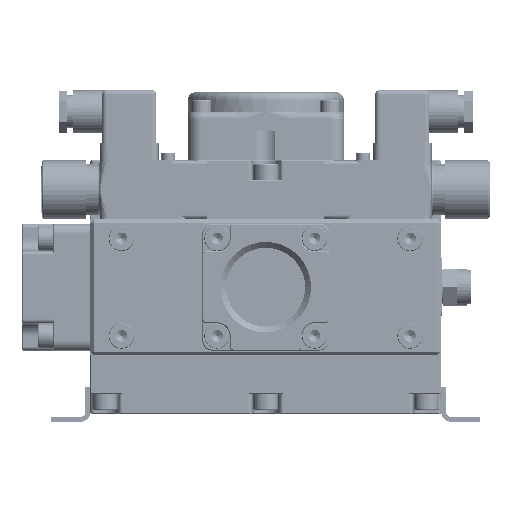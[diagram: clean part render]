
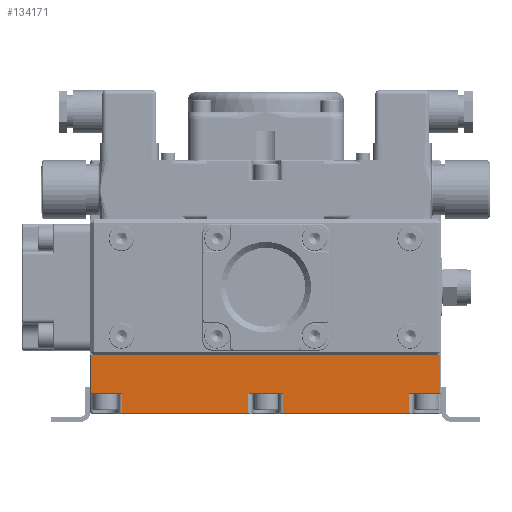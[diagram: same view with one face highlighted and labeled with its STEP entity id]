
A CAD part, front view. The second image highlights one B-rep face of the part: STEP entity #134171.
In plain terms, the highlighted planar face has unit normal (0, -1, 0).
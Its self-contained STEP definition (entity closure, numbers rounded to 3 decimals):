
#3 = VECTOR ( 'NONE', #94848, 1000. ) ;
#2282 = CARTESIAN_POINT ( 'NONE',  ( 163.5, 0., -29.5 ) ) ;
#3006 = DIRECTION ( 'NONE',  ( -1., 0., 0. ) ) ;
#4968 = CARTESIAN_POINT ( 'NONE',  ( 81., 0., -29.5 ) ) ;
#5796 = LINE ( 'NONE', #90646, #36987 ) ;
#7383 = LINE ( 'NONE', #80648, #7451 ) ;
#7451 = VECTOR ( 'NONE', #28660, 1000. ) ;
#8296 = DIRECTION ( 'NONE',  ( 0., 0., 1. ) ) ;
#10312 = DIRECTION ( 'NONE',  ( 0., 0., 1. ) ) ;
#10655 = ORIENTED_EDGE ( 'NONE', *, *, #125595, .F. ) ;
#10705 = CARTESIAN_POINT ( 'NONE',  ( 0., 0., 0. ) ) ;
#12466 = CARTESIAN_POINT ( 'NONE',  ( 163.5, 0., -19.5 ) ) ;
#12685 = DIRECTION ( 'NONE',  ( 0., 0., -1. ) ) ;
#14376 = VECTOR ( 'NONE', #26143, 1000. ) ;
#16918 = AXIS2_PLACEMENT_3D ( 'NONE', #10705, #31945, #71626 ) ;
#17251 = LINE ( 'NONE', #121272, #87725 ) ;
#18725 = EDGE_CURVE ( 'NONE', #129624, #106230, #130178, .T. ) ;
#21653 = VERTEX_POINT ( 'NONE', #127277 ) ;
#21790 = ORIENTED_EDGE ( 'NONE', *, *, #115852, .F. ) ;
#25494 = ORIENTED_EDGE ( 'NONE', *, *, #122169, .F. ) ;
#26143 = DIRECTION ( 'NONE',  ( 0., 0., 1. ) ) ;
#27993 = EDGE_CURVE ( 'NONE', #40693, #89831, #5796, .T. ) ;
#28660 = DIRECTION ( 'NONE',  ( -1., 0., 0. ) ) ;
#29913 = PLANE ( 'NONE',  #16918 ) ;
#31078 = ORIENTED_EDGE ( 'NONE', *, *, #133584, .F. ) ;
#31119 = VERTEX_POINT ( 'NONE', #2282 ) ;
#31945 = DIRECTION ( 'NONE',  ( 0., -1., 0. ) ) ;
#32235 = LINE ( 'NONE', #32910, #89298 ) ;
#32910 = CARTESIAN_POINT ( 'NONE',  ( 0.5, 0., -19.5 ) ) ;
#33313 = ORIENTED_EDGE ( 'NONE', *, *, #107420, .F. ) ;
#34014 = ORIENTED_EDGE ( 'NONE', *, *, #83152, .F. ) ;
#34524 = CARTESIAN_POINT ( 'NONE',  ( 16.5, 0., -19.5 ) ) ;
#35146 = CARTESIAN_POINT ( 'NONE',  ( 179.5, 0., 0. ) ) ;
#35724 = ORIENTED_EDGE ( 'NONE', *, *, #92519, .F. ) ;
#36001 = CARTESIAN_POINT ( 'NONE',  ( 0.5, 0., -19.5 ) ) ;
#36987 = VECTOR ( 'NONE', #131744, 1000. ) ;
#38793 = EDGE_CURVE ( 'NONE', #106230, #21653, #7383, .T. ) ;
#39113 = CARTESIAN_POINT ( 'NONE',  ( 99., 0., -29.5 ) ) ;
#40165 = VERTEX_POINT ( 'NONE', #85265 ) ;
#40693 = VERTEX_POINT ( 'NONE', #108161 ) ;
#41068 = ORIENTED_EDGE ( 'NONE', *, *, #27993, .F. ) ;
#48139 = CARTESIAN_POINT ( 'NONE',  ( 99., 0., -19.5 ) ) ;
#51754 = LINE ( 'NONE', #74322, #3 ) ;
#56453 = CARTESIAN_POINT ( 'NONE',  ( 81., 0., -19.5 ) ) ;
#59492 = DIRECTION ( 'NONE',  ( -1., 0., 0. ) ) ;
#59610 = LINE ( 'NONE', #74454, #123856 ) ;
#64965 = VERTEX_POINT ( 'NONE', #88416 ) ;
#68037 = VECTOR ( 'NONE', #119517, 1000. ) ;
#68133 = ORIENTED_EDGE ( 'NONE', *, *, #82665, .F. ) ;
#69633 = ORIENTED_EDGE ( 'NONE', *, *, #38793, .F. ) ;
#71626 = DIRECTION ( 'NONE',  ( 0., 0., 1. ) ) ;
#74322 = CARTESIAN_POINT ( 'NONE',  ( 179.5, 0., 0. ) ) ;
#74454 = CARTESIAN_POINT ( 'NONE',  ( 163.5, 0., -19.5 ) ) ;
#74527 = ORIENTED_EDGE ( 'NONE', *, *, #18725, .F. ) ;
#77088 = LINE ( 'NONE', #129795, #68037 ) ;
#77561 = DIRECTION ( 'NONE',  ( -1., 0., 0. ) ) ;
#78253 = EDGE_CURVE ( 'NONE', #64965, #89981, #97427, .T. ) ;
#80648 = CARTESIAN_POINT ( 'NONE',  ( 99., 0., -19.5 ) ) ;
#80826 = DIRECTION ( 'NONE',  ( 0., 0., -1. ) ) ;
#82665 = EDGE_CURVE ( 'NONE', #89831, #31119, #59610, .T. ) ;
#83152 = EDGE_CURVE ( 'NONE', #21653, #64965, #85249, .T. ) ;
#85249 = LINE ( 'NONE', #56453, #106554 ) ;
#85265 = CARTESIAN_POINT ( 'NONE',  ( 0.5, 0., 0. ) ) ;
#87213 = LINE ( 'NONE', #34524, #115161 ) ;
#87725 = VECTOR ( 'NONE', #8296, 1000. ) ;
#88416 = CARTESIAN_POINT ( 'NONE',  ( 81., 0., -29.5 ) ) ;
#89298 = VECTOR ( 'NONE', #10312, 1000. ) ;
#89831 = VERTEX_POINT ( 'NONE', #12466 ) ;
#89981 = VERTEX_POINT ( 'NONE', #123080 ) ;
#90282 = LINE ( 'NONE', #128881, #134554 ) ;
#90646 = CARTESIAN_POINT ( 'NONE',  ( 179.5, 0., -19.5 ) ) ;
#92519 = EDGE_CURVE ( 'NONE', #117771, #40165, #32235, .T. ) ;
#93518 = FACE_OUTER_BOUND ( 'NONE', #132507, .T. ) ;
#94096 = VERTEX_POINT ( 'NONE', #113775 ) ;
#94848 = DIRECTION ( 'NONE',  ( 0., 0., -1. ) ) ;
#97427 = LINE ( 'NONE', #4968, #102303 ) ;
#102303 = VECTOR ( 'NONE', #77561, 1000. ) ;
#103592 = VERTEX_POINT ( 'NONE', #35146 ) ;
#106230 = VERTEX_POINT ( 'NONE', #48139 ) ;
#106554 = VECTOR ( 'NONE', #12685, 1000. ) ;
#107420 = EDGE_CURVE ( 'NONE', #40165, #103592, #77088, .T. ) ;
#107962 = CARTESIAN_POINT ( 'NONE',  ( 99., 0., -29.5 ) ) ;
#108161 = CARTESIAN_POINT ( 'NONE',  ( 179.5, 0., -19.5 ) ) ;
#113775 = CARTESIAN_POINT ( 'NONE',  ( 16.5, 0., -19.5 ) ) ;
#115161 = VECTOR ( 'NONE', #3006, 1000. ) ;
#115852 = EDGE_CURVE ( 'NONE', #89981, #94096, #17251, .T. ) ;
#117771 = VERTEX_POINT ( 'NONE', #36001 ) ;
#119517 = DIRECTION ( 'NONE',  ( 1., 0., 0. ) ) ;
#121272 = CARTESIAN_POINT ( 'NONE',  ( 16.5, 0., -29.5 ) ) ;
#122169 = EDGE_CURVE ( 'NONE', #94096, #117771, #87213, .T. ) ;
#123080 = CARTESIAN_POINT ( 'NONE',  ( 16.5, 0., -29.5 ) ) ;
#123856 = VECTOR ( 'NONE', #80826, 1000. ) ;
#124867 = ORIENTED_EDGE ( 'NONE', *, *, #78253, .F. ) ;
#125595 = EDGE_CURVE ( 'NONE', #103592, #40693, #51754, .T. ) ;
#127277 = CARTESIAN_POINT ( 'NONE',  ( 81., 0., -19.5 ) ) ;
#128881 = CARTESIAN_POINT ( 'NONE',  ( 163.5, 0., -29.5 ) ) ;
#129624 = VERTEX_POINT ( 'NONE', #107962 ) ;
#129795 = CARTESIAN_POINT ( 'NONE',  ( 0.5, 0., 0. ) ) ;
#130178 = LINE ( 'NONE', #39113, #14376 ) ;
#131744 = DIRECTION ( 'NONE',  ( -1., 0., 0. ) ) ;
#132507 = EDGE_LOOP ( 'NONE', ( #68133, #41068, #10655, #33313, #35724, #25494, #21790, #124867, #34014, #69633, #74527, #31078 ) ) ;
#133584 = EDGE_CURVE ( 'NONE', #31119, #129624, #90282, .T. ) ;
#134171 = ADVANCED_FACE ( 'NONE', ( #93518 ), #29913, .T. ) ;
#134554 = VECTOR ( 'NONE', #59492, 1000. ) ;
